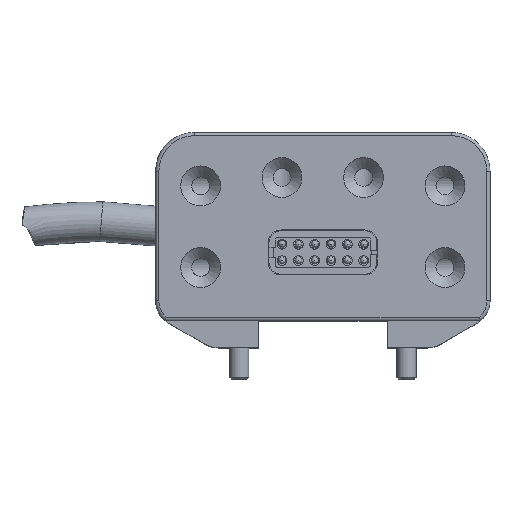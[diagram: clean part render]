
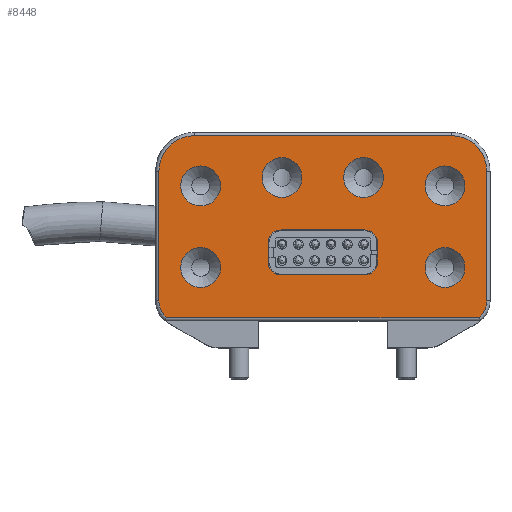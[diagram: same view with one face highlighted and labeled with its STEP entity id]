
A CAD part, top view. The second image highlights one B-rep face of the part: STEP entity #8448.
In plain terms, the highlighted planar face has unit normal (0, 0, 1).
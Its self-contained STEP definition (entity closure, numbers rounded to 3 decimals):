
#267=FACE_BOUND('',#1418,.T.);
#268=FACE_BOUND('',#1419,.T.);
#269=FACE_BOUND('',#1420,.T.);
#270=FACE_BOUND('',#1421,.T.);
#271=FACE_BOUND('',#1422,.T.);
#272=FACE_BOUND('',#1423,.T.);
#273=FACE_BOUND('',#1424,.T.);
#473=PLANE('',#9310);
#863=FACE_OUTER_BOUND('',#1417,.T.);
#1417=EDGE_LOOP('',(#6697,#6698,#6699,#6700,#6701,#6702,#6703,#6704));
#1418=EDGE_LOOP('',(#6705));
#1419=EDGE_LOOP('',(#6706));
#1420=EDGE_LOOP('',(#6707));
#1421=EDGE_LOOP('',(#6708,#6709,#6710,#6711,#6712,#6713,#6714,#6715));
#1422=EDGE_LOOP('',(#6716));
#1423=EDGE_LOOP('',(#6717));
#1424=EDGE_LOOP('',(#6718));
#1984=LINE('',#14192,#2537);
#1987=LINE('',#14235,#2540);
#1989=LINE('',#14247,#2542);
#1991=LINE('',#14259,#2544);
#2004=LINE('',#14309,#2557);
#2005=LINE('',#14313,#2558);
#2006=LINE('',#14317,#2559);
#2007=LINE('',#14320,#2560);
#2537=VECTOR('',#11295,10.);
#2540=VECTOR('',#11310,10.);
#2542=VECTOR('',#11324,10.);
#2544=VECTOR('',#11338,10.);
#2557=VECTOR('',#11387,10.);
#2558=VECTOR('',#11390,10.);
#2559=VECTOR('',#11393,10.);
#2560=VECTOR('',#11396,10.);
#3058=CIRCLE('',#9280,3.5);
#3064=CIRCLE('',#9288,5.5);
#3068=CIRCLE('',#9294,5.5);
#3071=CIRCLE('',#9299,3.5);
#3078=CIRCLE('',#9311,3.1);
#3079=CIRCLE('',#9312,3.1);
#3080=CIRCLE('',#9313,3.1);
#3081=CIRCLE('',#9314,2.);
#3082=CIRCLE('',#9315,2.);
#3083=CIRCLE('',#9316,2.);
#3084=CIRCLE('',#9317,2.);
#3085=CIRCLE('',#9318,3.1);
#3086=CIRCLE('',#9319,3.1);
#3087=CIRCLE('',#9320,3.1);
#3754=VERTEX_POINT('',#14190);
#3755=VERTEX_POINT('',#14191);
#3758=VERTEX_POINT('',#14225);
#3760=VERTEX_POINT('',#14231);
#3762=VERTEX_POINT('',#14237);
#3764=VERTEX_POINT('',#14243);
#3766=VERTEX_POINT('',#14249);
#3768=VERTEX_POINT('',#14255);
#3783=VERTEX_POINT('',#14299);
#3784=VERTEX_POINT('',#14301);
#3785=VERTEX_POINT('',#14303);
#3786=VERTEX_POINT('',#14305);
#3787=VERTEX_POINT('',#14306);
#3788=VERTEX_POINT('',#14308);
#3789=VERTEX_POINT('',#14310);
#3790=VERTEX_POINT('',#14312);
#3791=VERTEX_POINT('',#14314);
#3792=VERTEX_POINT('',#14316);
#3793=VERTEX_POINT('',#14318);
#3794=VERTEX_POINT('',#14321);
#3795=VERTEX_POINT('',#14323);
#3796=VERTEX_POINT('',#14325);
#4782=EDGE_CURVE('',#3754,#3755,#1984,.T.);
#4786=EDGE_CURVE('',#3755,#3758,#3058,.T.);
#4791=EDGE_CURVE('',#3758,#3760,#1987,.T.);
#4794=EDGE_CURVE('',#3760,#3762,#3064,.T.);
#4797=EDGE_CURVE('',#3762,#3764,#1989,.T.);
#4800=EDGE_CURVE('',#3764,#3766,#3068,.T.);
#4803=EDGE_CURVE('',#3766,#3768,#1991,.T.);
#4805=EDGE_CURVE('',#3768,#3754,#3071,.T.);
#4824=EDGE_CURVE('',#3783,#3783,#3078,.T.);
#4825=EDGE_CURVE('',#3784,#3784,#3079,.T.);
#4826=EDGE_CURVE('',#3785,#3785,#3080,.T.);
#4827=EDGE_CURVE('',#3786,#3787,#3081,.T.);
#4828=EDGE_CURVE('',#3787,#3788,#2004,.T.);
#4829=EDGE_CURVE('',#3788,#3789,#3082,.T.);
#4830=EDGE_CURVE('',#3789,#3790,#2005,.T.);
#4831=EDGE_CURVE('',#3790,#3791,#3083,.T.);
#4832=EDGE_CURVE('',#3791,#3792,#2006,.T.);
#4833=EDGE_CURVE('',#3792,#3793,#3084,.T.);
#4834=EDGE_CURVE('',#3793,#3786,#2007,.T.);
#4835=EDGE_CURVE('',#3794,#3794,#3085,.T.);
#4836=EDGE_CURVE('',#3795,#3795,#3086,.T.);
#4837=EDGE_CURVE('',#3796,#3796,#3087,.T.);
#6697=ORIENTED_EDGE('',*,*,#4782,.F.);
#6698=ORIENTED_EDGE('',*,*,#4805,.F.);
#6699=ORIENTED_EDGE('',*,*,#4803,.F.);
#6700=ORIENTED_EDGE('',*,*,#4800,.F.);
#6701=ORIENTED_EDGE('',*,*,#4797,.F.);
#6702=ORIENTED_EDGE('',*,*,#4794,.F.);
#6703=ORIENTED_EDGE('',*,*,#4791,.F.);
#6704=ORIENTED_EDGE('',*,*,#4786,.F.);
#6705=ORIENTED_EDGE('',*,*,#4824,.F.);
#6706=ORIENTED_EDGE('',*,*,#4825,.F.);
#6707=ORIENTED_EDGE('',*,*,#4826,.F.);
#6708=ORIENTED_EDGE('',*,*,#4827,.T.);
#6709=ORIENTED_EDGE('',*,*,#4828,.T.);
#6710=ORIENTED_EDGE('',*,*,#4829,.T.);
#6711=ORIENTED_EDGE('',*,*,#4830,.T.);
#6712=ORIENTED_EDGE('',*,*,#4831,.T.);
#6713=ORIENTED_EDGE('',*,*,#4832,.T.);
#6714=ORIENTED_EDGE('',*,*,#4833,.T.);
#6715=ORIENTED_EDGE('',*,*,#4834,.T.);
#6716=ORIENTED_EDGE('',*,*,#4835,.F.);
#6717=ORIENTED_EDGE('',*,*,#4836,.F.);
#6718=ORIENTED_EDGE('',*,*,#4837,.F.);
#8448=ADVANCED_FACE('',(#863,#267,#268,#269,#270,#271,#272,#273),#473,.T.);
#9280=AXIS2_PLACEMENT_3D('',#14226,#11299,#11300);
#9288=AXIS2_PLACEMENT_3D('',#14241,#11317,#11318);
#9294=AXIS2_PLACEMENT_3D('',#14253,#11331,#11332);
#9299=AXIS2_PLACEMENT_3D('',#14262,#11343,#11344);
#9310=AXIS2_PLACEMENT_3D('',#14298,#11377,#11378);
#9311=AXIS2_PLACEMENT_3D('',#14300,#11379,#11380);
#9312=AXIS2_PLACEMENT_3D('',#14302,#11381,#11382);
#9313=AXIS2_PLACEMENT_3D('',#14304,#11383,#11384);
#9314=AXIS2_PLACEMENT_3D('',#14307,#11385,#11386);
#9315=AXIS2_PLACEMENT_3D('',#14311,#11388,#11389);
#9316=AXIS2_PLACEMENT_3D('',#14315,#11391,#11392);
#9317=AXIS2_PLACEMENT_3D('',#14319,#11394,#11395);
#9318=AXIS2_PLACEMENT_3D('',#14322,#11397,#11398);
#9319=AXIS2_PLACEMENT_3D('',#14324,#11399,#11400);
#9320=AXIS2_PLACEMENT_3D('',#14326,#11401,#11402);
#11295=DIRECTION('',(-1.,0.,0.));
#11299=DIRECTION('center_axis',(0.,0.,
-1.));
#11300=DIRECTION('ref_axis',(-0.903,-0.431,0.));
#11310=DIRECTION('',(0.,1.,0.));
#11317=DIRECTION('center_axis',(0.,0.,
-1.));
#11318=DIRECTION('ref_axis',(-0.707,0.707,0.));
#11324=DIRECTION('',(1.,0.,0.));
#11331=DIRECTION('center_axis',(0.,0.,
-1.));
#11332=DIRECTION('ref_axis',(0.707,0.707,0.));
#11338=DIRECTION('',(0.,-1.,0.));
#11343=DIRECTION('center_axis',(0.,0.,
-1.));
#11344=DIRECTION('ref_axis',(0.903,-0.431,0.));
#11377=DIRECTION('center_axis',(0.,0.,
1.));
#11378=DIRECTION('ref_axis',(1.,0.,0.));
#11379=DIRECTION('center_axis',(0.,0.,
1.));
#11380=DIRECTION('ref_axis',(-1.,0.,0.));
#11381=DIRECTION('center_axis',(0.,0.,
1.));
#11382=DIRECTION('ref_axis',(-1.,0.,0.));
#11383=DIRECTION('center_axis',(0.,0.,
1.));
#11384=DIRECTION('ref_axis',(-1.,0.,0.));
#11385=DIRECTION('center_axis',(0.,0.,
-1.));
#11386=DIRECTION('ref_axis',(-1.,0.,0.));
#11387=DIRECTION('',(0.,-1.,0.));
#11388=DIRECTION('center_axis',(0.,0.,
-1.));
#11389=DIRECTION('ref_axis',(0.,1.,0.));
#11390=DIRECTION('',(-1.,0.,0.));
#11391=DIRECTION('center_axis',(0.,0.,
-1.));
#11392=DIRECTION('ref_axis',(1.,0.,0.));
#11393=DIRECTION('',(0.,1.,0.));
#11394=DIRECTION('center_axis',(0.,0.,
-1.));
#11395=DIRECTION('ref_axis',(0.,-1.,0.));
#11396=DIRECTION('',(1.,0.,0.));
#11397=DIRECTION('center_axis',(0.,0.,
1.));
#11398=DIRECTION('ref_axis',(-1.,0.,0.));
#11399=DIRECTION('center_axis',(0.,0.,
1.));
#11400=DIRECTION('ref_axis',(-1.,0.,0.));
#11401=DIRECTION('center_axis',(0.,0.,
1.));
#11402=DIRECTION('ref_axis',(-1.,0.,0.));
#14190=CARTESIAN_POINT('',(24.333,-14.15,13.8));
#14191=CARTESIAN_POINT('',(-24.333,-14.15,13.8));
#14192=CARTESIAN_POINT('',(-5.,-14.15,13.8));
#14225=CARTESIAN_POINT('',(-25.5,-11.541,13.8));
#14226=CARTESIAN_POINT('Origin',(-22.,-11.541,13.8));
#14231=CARTESIAN_POINT('',(-25.5,8.65,13.8));
#14235=CARTESIAN_POINT('',(-25.5,-10.475,13.8));
#14237=CARTESIAN_POINT('',(-20.,14.15,13.8));
#14241=CARTESIAN_POINT('Origin',(-20.,8.65,13.8));
#14243=CARTESIAN_POINT('',(20.,14.15,13.8));
#14247=CARTESIAN_POINT('',(-13.,14.15,13.8));
#14249=CARTESIAN_POINT('',(25.5,8.65,13.8));
#14253=CARTESIAN_POINT('Origin',(20.,8.65,13.8));
#14255=CARTESIAN_POINT('',(25.5,-11.541,13.8));
#14259=CARTESIAN_POINT('',(25.5,6.275,13.8));
#14262=CARTESIAN_POINT('Origin',(22.,-11.541,13.8));
#14298=CARTESIAN_POINT('Origin',(0.,-2.1,13.8));
#14299=CARTESIAN_POINT('',(9.45,7.65,13.8));
#14300=CARTESIAN_POINT('Origin',(6.35,7.65,13.8));
#14301=CARTESIAN_POINT('',(22.1,6.35,13.8));
#14302=CARTESIAN_POINT('Origin',(19.,6.35,13.8));
#14303=CARTESIAN_POINT('',(-15.9,-6.35,13.8));
#14304=CARTESIAN_POINT('Origin',(-19.,-6.35,13.8));
#14305=CARTESIAN_POINT('',(6.5,-0.5,13.8));
#14306=CARTESIAN_POINT('',(8.5,-2.5,13.8));
#14307=CARTESIAN_POINT('Origin',(6.5,-2.5,13.8));
#14308=CARTESIAN_POINT('',(8.5,-5.5,13.8));
#14309=CARTESIAN_POINT('',(8.5,-3.8,13.8));
#14310=CARTESIAN_POINT('',(6.5,-7.5,13.8));
#14311=CARTESIAN_POINT('Origin',(6.5,-5.5,13.8));
#14312=CARTESIAN_POINT('',(-6.5,-7.5,13.8));
#14313=CARTESIAN_POINT('',(-3.25,-7.5,13.8));
#14314=CARTESIAN_POINT('',(-8.5,-5.5,13.8));
#14315=CARTESIAN_POINT('Origin',(-6.5,-5.5,13.8));
#14316=CARTESIAN_POINT('',(-8.5,-2.5,13.8));
#14317=CARTESIAN_POINT('',(-8.5,-2.3,13.8));
#14318=CARTESIAN_POINT('',(-6.5,-0.5,13.8));
#14319=CARTESIAN_POINT('Origin',(-6.5,-2.5,13.8));
#14320=CARTESIAN_POINT('',(3.25,-0.5,13.8));
#14321=CARTESIAN_POINT('',(-15.9,6.35,13.8));
#14322=CARTESIAN_POINT('Origin',(-19.,6.35,13.8));
#14323=CARTESIAN_POINT('',(22.1,-6.35,13.8));
#14324=CARTESIAN_POINT('Origin',(19.,-6.35,13.8));
#14325=CARTESIAN_POINT('',(-3.25,7.65,13.8));
#14326=CARTESIAN_POINT('Origin',(-6.35,7.65,13.8));
